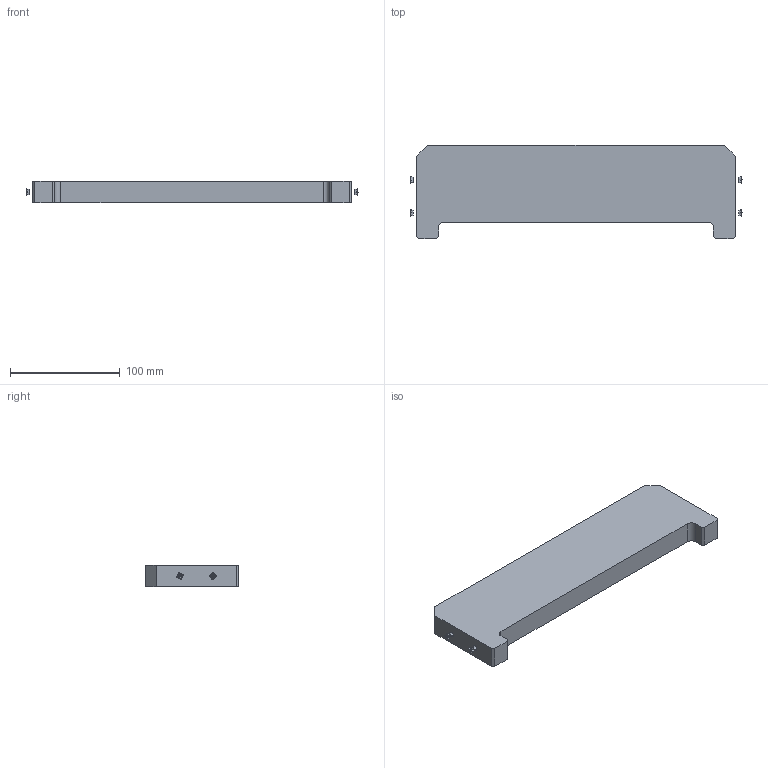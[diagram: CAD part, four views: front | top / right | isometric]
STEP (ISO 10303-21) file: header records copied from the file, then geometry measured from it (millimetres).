
FILE_DESCRIPTION(('CAx-IF Rec.Pracs.---Model Styling and Organization---1.2---2011-12-15','CAx-IF Rec.Pracs.---Geometric and Assembly Validation Properties---4.1---2014-06-16','CAx-IF Rec.Pracs.---PMI Polyline Presentation---2.0---2013-05-24'),'2;1');
FILE_NAME('R5MGBS6.stp','2021-05-05T12:54:09+03:00',(''),(''),'STEP Interface 4.4 by CT CoreTechnologie','3D_Evolution4.4 by CT CoreTechnologie','');
FILE_SCHEMA(('AUTOMOTIVE_DESIGN { 1 0 10303 214 1 1 1 1 }'));
Length unit declared in the file: millimetre
Products named in the file (3): R5MGBS6; ST5,5x13 DIN 7981_thread; RB.0887.00.00.0_-00
Assembly tree (5 placements, depth 2):
  R5MGBS6
    ST5,5x13 DIN 7981_thread  x4
    RB.0887.00.00.0_-00
Bounding box: 302 x 85 x 20 mm (x, y, z)
Surface area: 57894.8 mm2 (no closed solid volume)
Topology: 0 solids, 5 shells, 103 faces, 276 edges, 186 vertices
Faces by surface type: plane 71, bspline 24, cylinder 8
Entity records: 1676 total; most frequent: CARTESIAN_POINT 325, DIRECTION 250, ORIENTED_EDGE 246, EDGE_CURVE 123, VECTOR 88, LINE 88, VERTEX_POINT 84, AXIS2_PLACEMENT_3D 81
